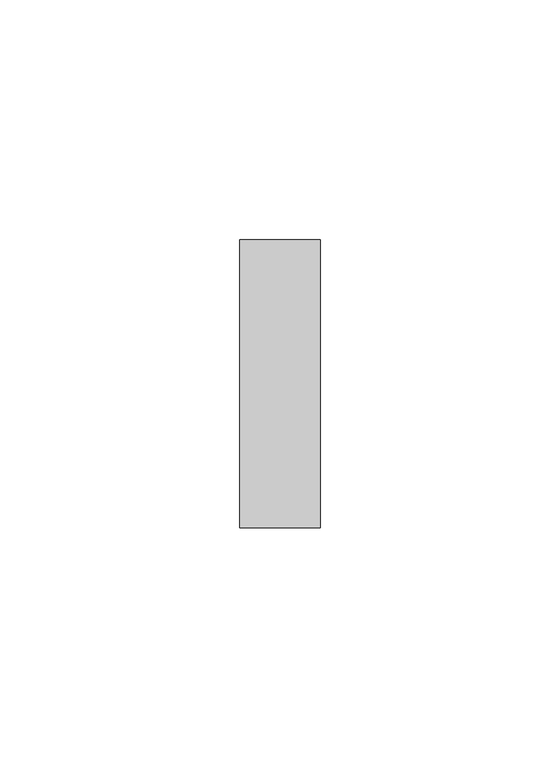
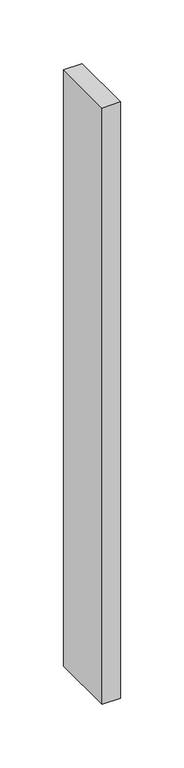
"""IFC4 building model written with IfcOpenShell, lengths in millimetres: plate geometry, Системная панель : Алюкобонд серый."""

import ifcopenshell
import ifcopenshell.guid

model = None  # the IFC model being written
_history = None  # IfcOwnerHistory: only IFC2X3 demands one
_inside = {}  # id of a spatial element -> (the spatial element, [elements in it])
_under = {}  # id of a project, library or spatial element -> (it, [spatial elements below it])
_declared = {}  # id of a project -> (the project, [libraries it declares])
_typed = {}  # id of a type object -> (the type object, [elements of that type])
_made_of = {}  # id of a material, layer set ... -> (it, [elements and type objects made of it])


def new_model(schema):
    """Start an empty IFC model of exactly this schema.

    Asked for "IFC4X3", IfcOpenShell would pick the latest addendum, in which some entities
    have other attributes; the version numbers below select the first issue.
    IFC2X3 requires an IfcOwnerHistory on every rooted entity: one is made here for all.
    """
    global model, _history
    if schema == "IFC4X3":
        model = ifcopenshell.file(schema_version=(4, 3, 0, 0))
    else:
        model = ifcopenshell.file(schema=schema)
    _inside.clear()
    _under.clear()
    _declared.clear()
    _typed.clear()
    _made_of.clear()
    _history = None
    if model.schema == "IFC2X3":
        org = make("IfcOrganization", Name="unknown")
        user = make(
            "IfcPersonAndOrganization",
            ThePerson=make("IfcPerson", FamilyName="unknown"),
            TheOrganization=org,
        )
        app = make(
            "IfcApplication",
            ApplicationDeveloper=org,
            Version="unknown",
            ApplicationFullName="unknown",
            ApplicationIdentifier="unknown",
        )
        _history = make(
            "IfcOwnerHistory",
            OwningUser=user,
            OwningApplication=app,
            ChangeAction="ADDED",
            CreationDate=0,
        )
    return model


def make(cls, **values):
    """One entity of the class cls with the attributes given. An attribute that is None is left unset."""
    return model.create_entity(
        cls, **{name: value for name, value in values.items() if value is not None}
    )


def rooted(cls, **values):
    """An entity with a GlobalId (a new one), such as an element, a storey or a relation."""
    return make(cls, GlobalId=ifcopenshell.guid.new(), OwnerHistory=_history, **values)


def si_unit(unit_type, name, prefix=None):
    """IfcSIUnit, for example si_unit("LENGTHUNIT", "METRE", prefix="MILLI")."""
    return make("IfcSIUnit", UnitType=unit_type, Prefix=prefix, Name=name)


def assignment(units):
    """IfcUnitAssignment: the units of a project."""
    return None if units is None else make("IfcUnitAssignment", Units=units)


def point(xyz):
    """IfcCartesianPoint."""
    return None if xyz is None else make("IfcCartesianPoint", Coordinates=xyz)


def direction(xyz):
    """IfcDirection."""
    return None if xyz is None else make("IfcDirection", DirectionRatios=xyz)


def frame(location, z_axis=None, x_axis=None):
    """IfcAxis2Placement3D, a coordinate frame: its origin and axes. An axis left out is left unset."""
    return make(
        "IfcAxis2Placement3D",
        Location=point(location),
        Axis=direction(z_axis),
        RefDirection=direction(x_axis),
    )


def origin():
    """The frame at (0, 0, 0) with its axes left unset."""
    return frame((0.0, 0.0, 0.0))


def origin_with_axes():
    """The frame at (0, 0, 0) with the z axis (0, 0, 1) and the x axis (1, 0, 0) written out."""
    return frame((0.0, 0.0, 0.0), z_axis=(0.0, 0.0, 1.0), x_axis=(1.0, 0.0, 0.0))


def place(relative_to, where):
    """IfcLocalPlacement: puts the frame where relative to a parent placement (None: the world)."""
    return make(
        "IfcLocalPlacement", PlacementRelTo=relative_to, RelativePlacement=where
    )


def context(
    kind, dimensions, precision=None, world=None, true_north=None, identifier=None
):
    """IfcGeometricRepresentationContext, for example the 3D "Model" context."""
    return make(
        "IfcGeometricRepresentationContext",
        ContextIdentifier=identifier,
        ContextType=kind,
        CoordinateSpaceDimension=dimensions,
        Precision=precision,
        WorldCoordinateSystem=world,
        TrueNorth=true_north,
    )


def project(units=None, contexts=None):
    """IfcProject with its units and contexts."""
    return rooted(
        "IfcProject",
        Name="project",
        RepresentationContexts=contexts,
        UnitsInContext=assignment(units),
    )


def spatial(cls, under=None, at=None, **own):
    """A site, building, storey or space (cls), placed at a placement, below another one or the project."""
    s = rooted(cls, ObjectPlacement=at, **own)
    if under is not None:
        _under.setdefault(under.id(), (under, []))[1].append(s)
    return s


def polyline(points):
    """IfcPolyline through the points."""
    return make("IfcPolyline", Points=[point(p) for p in points])


def outline(outer, holes=None, kind="AREA"):
    """IfcArbitraryClosedProfileDef: a profile drawn as a closed curve; with holes, ...WithVoids."""
    if holes is None:
        return make("IfcArbitraryClosedProfileDef", ProfileType=kind, OuterCurve=outer)
    return make(
        "IfcArbitraryProfileDefWithVoids",
        ProfileType=kind,
        OuterCurve=outer,
        InnerCurves=holes,
    )


def extrude(swept, where, along, depth):
    """IfcExtrudedAreaSolid: the profile swept, set in the frame where, extruded along a direction by depth."""
    return make(
        "IfcExtrudedAreaSolid",
        SweptArea=swept,
        Position=where,
        ExtrudedDirection=direction(along),
        Depth=depth,
    )


def shape(context_of_items, identifier, shape_type, items):
    """IfcShapeRepresentation: the items that make up one representation, for example the "Body"."""
    return make(
        "IfcShapeRepresentation",
        ContextOfItems=context_of_items,
        RepresentationIdentifier=identifier,
        RepresentationType=shape_type,
        Items=items,
    )


def source(mapping_origin, context_of_items, identifier, shape_type, items):
    """IfcRepresentationMap: a shape defined once, which mapped items show again and again."""
    return make(
        "IfcRepresentationMap",
        MappingOrigin=mapping_origin,
        MappedRepresentation=shape(context_of_items, identifier, shape_type, items),
    )


def transform(
    local_origin,
    x_axis=None,
    y_axis=None,
    z_axis=None,
    scale=None,
    scale2=None,
    scale3=None,
    uniform=True,
):
    """IfcCartesianTransformationOperator3D, or its non-uniform kind. x_axis, y_axis, z_axis: its Axis1, 2, 3."""
    if uniform:
        return make(
            "IfcCartesianTransformationOperator3D",
            Axis1=direction(x_axis),
            Axis2=direction(y_axis),
            LocalOrigin=point(local_origin),
            Scale=scale,
            Axis3=direction(z_axis),
        )
    return make(
        "IfcCartesianTransformationOperator3DnonUniform",
        Axis1=direction(x_axis),
        Axis2=direction(y_axis),
        LocalOrigin=point(local_origin),
        Scale=scale,
        Axis3=direction(z_axis),
        Scale2=scale2,
        Scale3=scale3,
    )


def mapped(mapping_source, mapping_target):
    """IfcMappedItem: shows the shape of a source again, moved by a transform."""
    return make(
        "IfcMappedItem", MappingSource=mapping_source, MappingTarget=mapping_target
    )


def made_of(thing, what):
    """Note that an element or type object is made of a material, layer set ...; save() writes the relation."""
    if what is not None:
        _made_of.setdefault(what.id(), (what, []))[1].append(thing)
    return thing


def element(
    cls,
    number,
    at=None,
    inside=None,
    cuts=None,
    type_object=None,
    material=None,
    context=None,
    identifier="Body",
    shape_type=None,
    held_by="IfcProductDefinitionShape",
    body=None,
    shapes=None,
    **own,
):
    """One element of the class cls, such as IfcWall. Its Tag is "e" and its number.

    at: its placement. inside: the storey or other place that contains it. cuts: it is an
    opening in that element (IfcRelVoidsElement). A single representation is given by context,
    identifier, shape_type and body (its items); several are given by shapes. held_by: the class
    of the entity that holds the representations. save() writes the other relations.
    """
    e = rooted(cls, Tag="e%d" % number, ObjectPlacement=at, **own)
    if body is not None:
        shapes = [shape(context, identifier, shape_type, body)]
    if shapes is not None:
        e.Representation = make(held_by, Representations=shapes)
    if inside is not None:
        _inside.setdefault(inside.id(), (inside, []))[1].append(e)
    if cuts is not None:
        rooted(
            "IfcRelVoidsElement", RelatingBuildingElement=cuts, RelatedOpeningElement=e
        )
    if type_object is not None:
        _typed.setdefault(type_object.id(), (type_object, []))[1].append(e)
    return made_of(e, material)


def aggregate(whole, parts):
    """IfcRelAggregates: a whole, such as a stair, and the parts it consists of."""
    return rooted("IfcRelAggregates", RelatingObject=whole, RelatedObjects=parts)


def save(model, path):
    """Write the relations noted so far, then the file.

    IfcRelAggregates (storeys below a building ...), IfcRelContainedInSpatialStructure (elements
    in a storey), IfcRelDefinesByType, IfcRelAssociatesMaterial and IfcRelDeclares: one each for
    every whole, place, type object, material and project.
    """
    for whole, parts in _under.values():
        aggregate(whole, parts)
    for where, things in _inside.values():
        rooted(
            "IfcRelContainedInSpatialStructure",
            RelatedElements=things,
            RelatingStructure=where,
        )
    for kind, things in _typed.values():
        rooted("IfcRelDefinesByType", RelatedObjects=things, RelatingType=kind)
    for what, things in _made_of.values():
        rooted("IfcRelAssociatesMaterial", RelatedObjects=things, RelatingMaterial=what)
    for by, libraries in _declared.values():
        rooted("IfcRelDeclares", RelatingContext=by, RelatedDefinitions=libraries)
    model.write(path)


def plate_1d249522(model_context):
    return source(origin(), model_context, "Body", "SweptSolid", [
        extrude(outline(polyline([(8.3657399, -49.5), (-8.3657399, -49.5), (-8.3657399, 10.5), (8.3657399, 10.5), (8.3657399, -49.5)])), origin_with_axes(), (0.0, 0.0, 1.0), 570.0),
    ])


if __name__ == "__main__":
    model = new_model("IFC4")
    model_context = context("Model", 3, world=origin())
    ifc_project = project(units=[si_unit("LENGTHUNIT", "METRE", prefix="MILLI")], contexts=[model_context])
    site = spatial("IfcSite", under=ifc_project)
    building = spatial("IfcBuilding", under=site)
    placement = place(None, origin())
    plate_shape = plate_1d249522(model_context)
    element("IfcPlate", 1, ObjectType="Системная панель : Алюкобонд серый", at=placement, inside=building, context=model_context, shape_type="MappedRepresentation", body=[
        mapped(plate_shape, transform((0.0, 0.0, 0.0), x_axis=(1.0, 0.0, 0.0), y_axis=(0.0, 1.0, 0.0), z_axis=(0.0, 0.0, 1.0))),
    ])
    save(model, "model.ifc")
